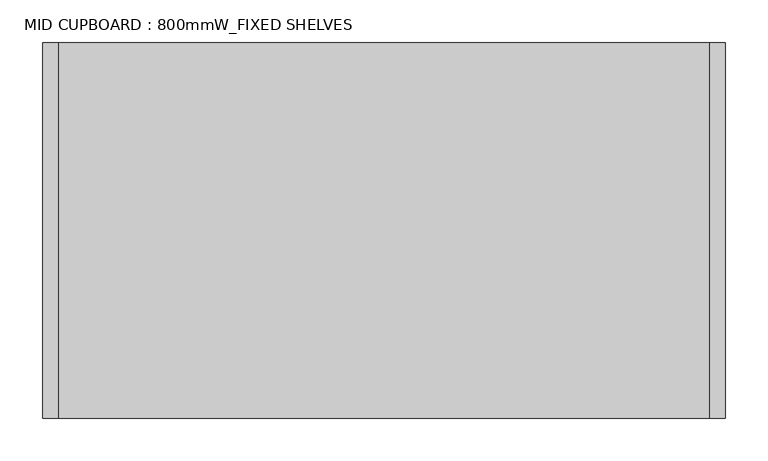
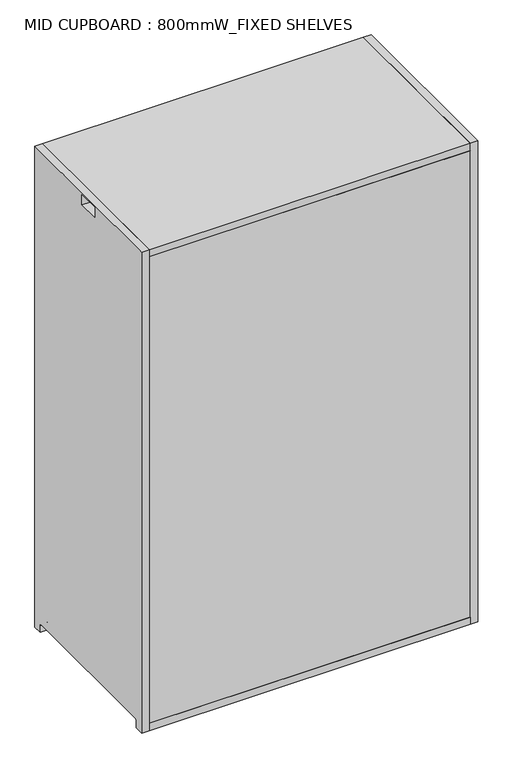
"""IFC4 building model written with IfcOpenShell, lengths in millimetres: furniture geometry, MID CUPBOARD : 800mmW_FIXED SHELVES."""

from ifc_helpers import new_model, si_unit, point, frame, frame_2d, origin, place, context, project, spatial, polyline, circle_curve, trimmed, segment, composite_curve, outline, extrude, source, transform, mapped, element, save
from ifc_brep_helpers import plane_surface, revolved_surface, advanced_brep


def mid_cupboard_800mmw_fixed_shelves_11735785(model_context):
    return source(origin(), model_context, "Body", "SolidModel", [
        extrude(outline(composite_curve([segment(polyline([(220.0, 1210.0), (220.0, 0.0), (198.0, 0.0), (198.0, 17.0)]), True, "CONTINUOUS"), segment(trimmed(circle_curve(frame_2d((194.0, 17.0)), 4.0), [point((198.0, 17.0))], [point((194.0, 21.0))], True, "CARTESIAN"), True, "CONTINUOUS"), segment(polyline([(194.0, 21.0), (-194.0, 21.0)]), True, "CONTINUOUS"), segment(trimmed(circle_curve(frame_2d((-194.0, 17.0)), 4.0), [point((-194.0, 21.0))], [point((-198.0, 17.0))], True, "CARTESIAN"), True, "CONTINUOUS"), segment(polyline([(-198.0, 17.0), (-198.0, 0.0), (-220.0, 0.0), (-220.0, 1210.0), (220.0, 1210.0)]), True, "CONTINUOUS")], self_intersect=False), holes=[polyline([(26.0, 1205.0), (-26.0, 1205.0), (-26.0, 1180.0), (26.0, 1180.0), (26.0, 1205.0)])]), frame((-400.0, 0.0, 0.0), z_axis=(1.0, 0.0, 0.0), x_axis=(0.0, 1.0, 0.0)), (0.0, 0.0, 1.0), 18.0),
        advanced_brep(
        [(382.0, -220.0, 18.0), (382.0, 220.0, 18.0), (-382.0, 220.0, 18.0), (-382.0, 197.8729833, 18.0), (-376.1019215, 197.8729833, 18.0), (-376.1019215, -197.8729833, 18.0), (-382.0, -197.8729833, 18.0), (-382.0, -220.0, 18.0), (382.0, -220.0, 0.0), (-382.0, -220.0, 0.0), (-382.0, -198.0, 0.0), (-376.1019215, -198.0, 0.0), (-376.1019215, 198.0, 0.0), (-382.0, 198.0, 0.0), (-382.0, 220.0, 0.0), (382.0, 220.0, 0.0), (-382.0, -198.0, 17.0), (-382.0, 198.0, 17.0), (-376.1019215, -198.0, 17.0), (-376.1019215, 198.0, 17.0)],
        [
            (0, 1),
            (1, 2),
            (2, 3),
            (3, 4),
            (4, 5),
            (5, 6),
            (6, 7),
            (7, 0),
            (8, 9),
            (9, 10),
            (10, 11),
            (11, 12),
            (12, 13),
            (13, 14),
            (14, 15),
            (15, 8),
            (7, 9),
            (8, 0),
            (6, 16, circle_curve(frame((-382.0, -194.0, 17.0), z_axis=(1.0, 0.0, 0.0), x_axis=(0.0, -1.0, 0.0)), 4.0)),
            (16, 10),
            (13, 17),
            (17, 3, circle_curve(frame((-382.0, 194.0, 17.0), z_axis=(1.0, 0.0, 0.0), x_axis=(0.0, -1.0, 0.0)), 4.0)),
            (2, 14),
            (1, 15),
            (18, 5, circle_curve(frame((-376.1019215, -194.0, 17.0), z_axis=(-1.0, 0.0, 0.0), x_axis=(0.0, -1.0, 0.0)), 4.0)),
            (4, 19, circle_curve(frame((-376.1019215, 194.0, 17.0), z_axis=(-1.0, 0.0, 0.0), x_axis=(0.0, -1.0, 0.0)), 4.0)),
            (19, 12),
            (11, 18),
            (17, 19),
            (16, 18),
        ],
        [
            plane_surface(frame((-382.0, -220.0, 18.0), z_axis=(0.0, 0.0, 1.0), x_axis=(-1.0, 0.0, 0.0))),
            plane_surface(frame((-382.0, -220.0, 0.0), z_axis=(0.0, 0.0, -1.0), x_axis=(1.0, 0.0, 0.0))),
            plane_surface(frame((382.0, -220.0, 18.0), z_axis=(0.0, -1.0, 0.0), x_axis=(0.0, 0.0, -1.0))),
            plane_surface(frame((-382.0, -220.0, 18.0), z_axis=(-1.0, 0.0, 0.0), x_axis=(0.0, 0.0, -1.0))),
            plane_surface(frame((-382.0, 220.0, 18.0), z_axis=(0.0, 1.0, 0.0), x_axis=(0.0, 0.0, -1.0))),
            plane_surface(frame((382.0, 220.0, 18.0), z_axis=(1.0, 0.0, 0.0), x_axis=(0.0, 0.0, -1.0))),
            plane_surface(frame((-376.1019215, 190.0, 17.0), z_axis=(-1.0, 0.0, 0.0), x_axis=(0.0, 0.0, 1.0))),
            revolved_surface(polyline([(-376.1019215, 190.0, 17.0), (-382.0, 190.0, 17.0)]), (-406.0458228, 194.0, 17.0), (1.0, 0.0, 0.0)),
            plane_surface(frame((-376.1019215, 198.0, 17.0), z_axis=(0.0, -1.0, 0.0), x_axis=(-1.0, 0.0, 0.0))),
            plane_surface(frame((-376.1019215, -198.0, 0.0), z_axis=(0.0, 1.0, 0.0), x_axis=(-1.0, 0.0, 0.0))),
            revolved_surface(polyline([(-376.1019215, -198.0, 17.0), (-382.0, -198.0, 17.0)]), (-406.0458228, -194.0, 17.0), (1.0, 0.0, 0.0)),
        ],
        [
            (0, [[1, 2, 3, 4, 5, 6, 7, 8]]),
            (1, [[9, 10, 11, 12, 13, 14, 15, 16]]),
            (2, [[17, -9, 18, -8]]),
            (3, [[-7, 19, 20, -10, -17]]),
            (3, [[-14, 21, 22, -3, 23]]),
            (4, [[24, -15, -23, -2]]),
            (5, [[-18, -16, -24, -1]]),
            (6, [[25, -5, 26, 27, -12, 28]]),
            (7, [[-4, -22, 29, -26]]),
            (8, [[-29, -21, -13, -27]]),
            (9, [[-11, -20, 30, -28]]),
            (10, [[-30, -19, -6, -25]]),
        ],
    ),
        extrude(outline(composite_curve([segment(polyline([(220.0, 1210.0), (220.0, 0.0), (198.0, 0.0), (198.0, 17.0)]), True, "CONTINUOUS"), segment(trimmed(circle_curve(frame_2d((194.0, 17.0)), 4.0), [point((198.0, 17.0))], [point((194.0, 21.0))], True, "CARTESIAN"), True, "CONTINUOUS"), segment(polyline([(194.0, 21.0), (-194.0, 21.0)]), True, "CONTINUOUS"), segment(trimmed(circle_curve(frame_2d((-194.0, 17.0)), 4.0), [point((-194.0, 21.0))], [point((-198.0, 17.0))], True, "CARTESIAN"), True, "CONTINUOUS"), segment(polyline([(-198.0, 17.0), (-198.0, 0.0), (-220.0, 0.0), (-220.0, 1210.0), (220.0, 1210.0)]), True, "CONTINUOUS")], self_intersect=False), holes=[polyline([(26.0, 1205.0), (-26.0, 1205.0), (-26.0, 1180.0), (26.0, 1180.0), (26.0, 1205.0)])]), frame((382.0, 0.0, 0.0), z_axis=(1.0, 0.0, 0.0), x_axis=(0.0, 1.0, 0.0)), (0.0, 0.0, 1.0), 18.0),
        extrude(outline(polyline([(382.0, -220.0), (-382.0, -220.0), (-382.0, -202.0), (382.0, -202.0), (382.0, -220.0)])), frame((0.0, 0.0, 18.0), z_axis=(0.0, 0.0, 1.0), x_axis=(1.0, 0.0, 0.0)), (0.0, 0.0, 1.0), 1174.0),
        extrude(outline(polyline([(382.0, -202.0), (-382.0, -202.0), (-382.0, 220.0), (382.0, 220.0), (382.0, -202.0)])), frame((0.0, 0.0, 398.5), z_axis=(0.0, 0.0, 1.0), x_axis=(1.0, 0.0, 0.0)), (0.0, 0.0, 1.0), 18.0),
        extrude(outline(polyline([(382.0, -202.0), (-382.0, -202.0), (-382.0, 220.0), (382.0, 220.0), (382.0, -202.0)])), frame((0.0, 0.0, 793.5), z_axis=(0.0, 0.0, 1.0), x_axis=(1.0, 0.0, 0.0)), (0.0, 0.0, 1.0), 18.0),
        extrude(outline(polyline([(382.0, -220.0), (-382.0, -220.0), (-382.0, 220.0), (382.0, 220.0), (382.0, -220.0)])), frame((0.0, 0.0, 1192.0), z_axis=(0.0, 0.0, 1.0), x_axis=(1.0, 0.0, 0.0)), (0.0, 0.0, 1.0), 18.0),
    ])


if __name__ == "__main__":
    model = new_model("IFC4")
    model_context = context("Model", 3, world=origin())
    ifc_project = project(units=[si_unit("LENGTHUNIT", "METRE", prefix="MILLI")], contexts=[model_context])
    site = spatial("IfcSite", under=ifc_project)
    building = spatial("IfcBuilding", under=site)
    placement = place(None, origin())
    mid_cupboard_800mmw_fixed_shelves_shape = mid_cupboard_800mmw_fixed_shelves_11735785(model_context)
    element("IfcFurniture", 1, ObjectType="MID CUPBOARD : 800mmW_FIXED SHELVES", at=placement, inside=building, context=model_context, shape_type="MappedRepresentation", body=[
        mapped(mid_cupboard_800mmw_fixed_shelves_shape, transform((0.0, 0.0, 0.0), x_axis=(1.0, 0.0, 0.0), y_axis=(0.0, 1.0, 0.0), z_axis=(0.0, 0.0, 1.0))),
    ])
    save(model, "model.ifc")
